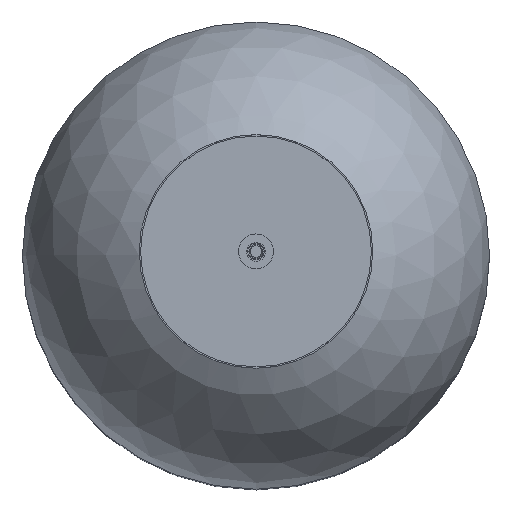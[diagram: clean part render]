
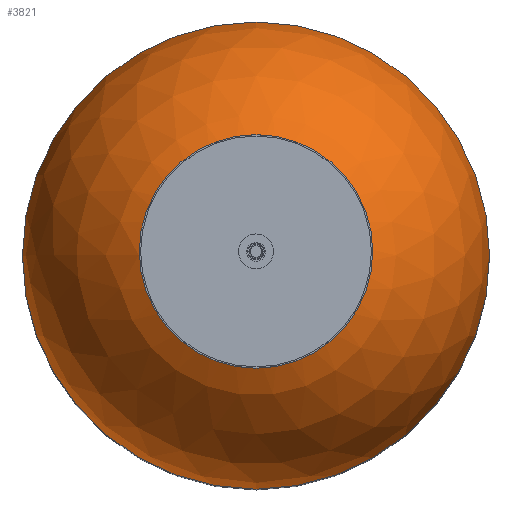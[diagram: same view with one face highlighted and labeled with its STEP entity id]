
A CAD part, top view. The second image highlights one B-rep face of the part: STEP entity #3821.
In plain terms, the highlighted spherical face has radius 127 mm.
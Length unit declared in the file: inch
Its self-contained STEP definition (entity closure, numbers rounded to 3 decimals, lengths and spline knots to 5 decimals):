
#336=SPHERICAL_SURFACE('',#4087,5.);
#432=FACE_OUTER_BOUND('',#665,.T.);
#665=EDGE_LOOP('',(#2478,#2479,#2480,#2481,#2482,#2483));
#1359=CIRCLE('',#4075,0.885);
#1362=CIRCLE('',#4078,0.885);
#1368=CIRCLE('',#4088,5.);
#1369=CIRCLE('',#4089,5.);
#1370=CIRCLE('',#4090,5.);
#1458=VERTEX_POINT('',#5256);
#1459=VERTEX_POINT('',#5257);
#1466=VERTEX_POINT('',#5279);
#1467=VERTEX_POINT('',#5281);
#1858=EDGE_CURVE('',#1458,#1459,#1359,.T.);
#1862=EDGE_CURVE('',#1459,#1458,#1362,.T.);
#1869=EDGE_CURVE('',#1459,#1466,#1368,.T.);
#1870=EDGE_CURVE('',#1467,#1466,#1369,.T.);
#1871=EDGE_CURVE('',#1466,#1467,#1370,.T.);
#2478=ORIENTED_EDGE('',*,*,#1858,.T.);
#2479=ORIENTED_EDGE('',*,*,#1869,.T.);
#2480=ORIENTED_EDGE('',*,*,#1870,.F.);
#2481=ORIENTED_EDGE('',*,*,#1871,.F.);
#2482=ORIENTED_EDGE('',*,*,#1869,.F.);
#2483=ORIENTED_EDGE('',*,*,#1862,.T.);
#3821=ADVANCED_FACE('',(#432),#336,.T.);
#4075=AXIS2_PLACEMENT_3D('',#5258,#4398,#4399);
#4078=AXIS2_PLACEMENT_3D('',#5264,#4405,#4406);
#4087=AXIS2_PLACEMENT_3D('',#5278,#4424,#4425);
#4088=AXIS2_PLACEMENT_3D('',#5280,#4426,#4427);
#4089=AXIS2_PLACEMENT_3D('',#5282,#4428,#4429);
#4090=AXIS2_PLACEMENT_3D('',#5283,#4430,#4431);
#4398=DIRECTION('center_axis',(0.,0.,
-1.));
#4399=DIRECTION('ref_axis',(1.,0.,0.));
#4405=DIRECTION('center_axis',(0.,0.,
-1.));
#4406=DIRECTION('ref_axis',(1.,0.,0.));
#4424=DIRECTION('center_axis',(0.,0.,
1.));
#4425=DIRECTION('ref_axis',(1.,0.,0.));
#4426=DIRECTION('center_axis',(0.,-1.,
0.));
#4427=DIRECTION('ref_axis',(-1.,0.,0.));
#4428=DIRECTION('center_axis',(0.,0.,
-1.));
#4429=DIRECTION('ref_axis',(1.,0.,0.));
#4430=DIRECTION('center_axis',(0.,0.,
-1.));
#4431=DIRECTION('ref_axis',(1.,0.,0.));
#5256=CARTESIAN_POINT('',(-0.885,0.00002,1.77859));
#5257=CARTESIAN_POINT('',(-0.885,0.,1.77859));
#5258=CARTESIAN_POINT('Origin',(0.,0.00002,
1.77859));
#5264=CARTESIAN_POINT('Origin',(0.,0.00002,
1.77859));
#5278=CARTESIAN_POINT('Origin',(0.,0.00002,
-3.14246));
#5279=CARTESIAN_POINT('',(-5.,0.00002,-3.14247));
#5280=CARTESIAN_POINT('Origin',(0.,0.00002,
-3.14246));
#5281=CARTESIAN_POINT('',(5.,0.00002,-3.14246));
#5282=CARTESIAN_POINT('Origin',(0.,0.00002,
-3.14246));
#5283=CARTESIAN_POINT('Origin',(0.,0.00002,
-3.14246));
